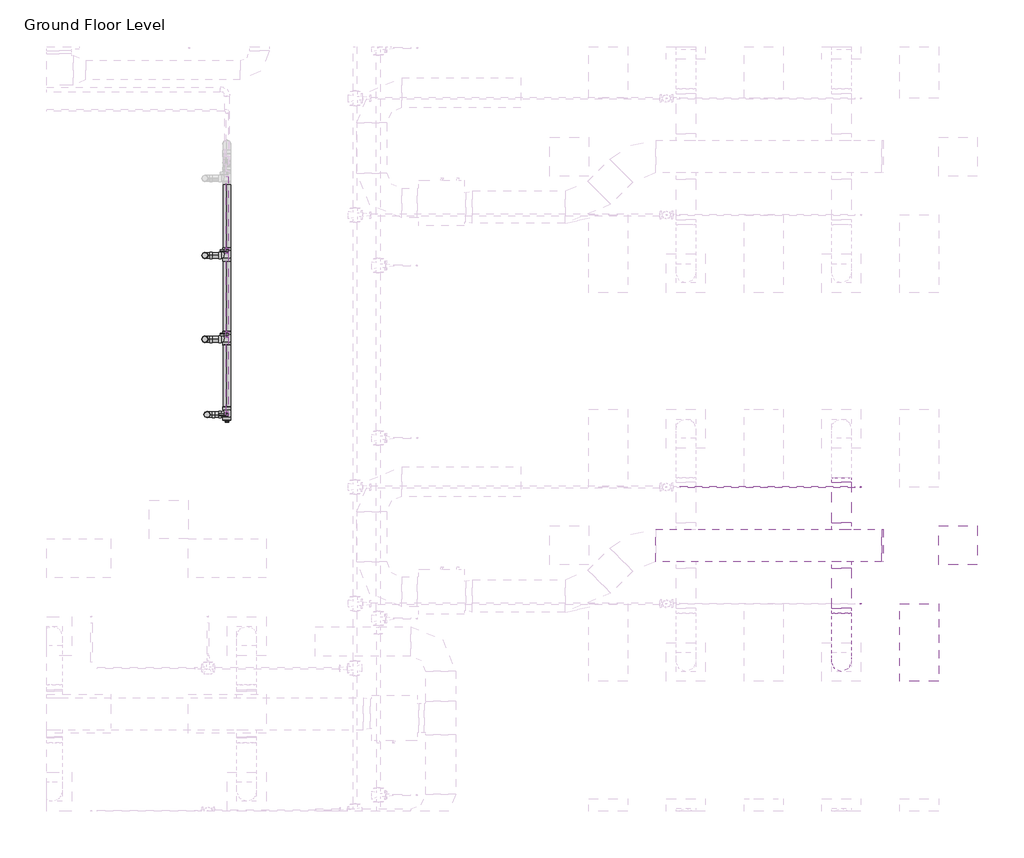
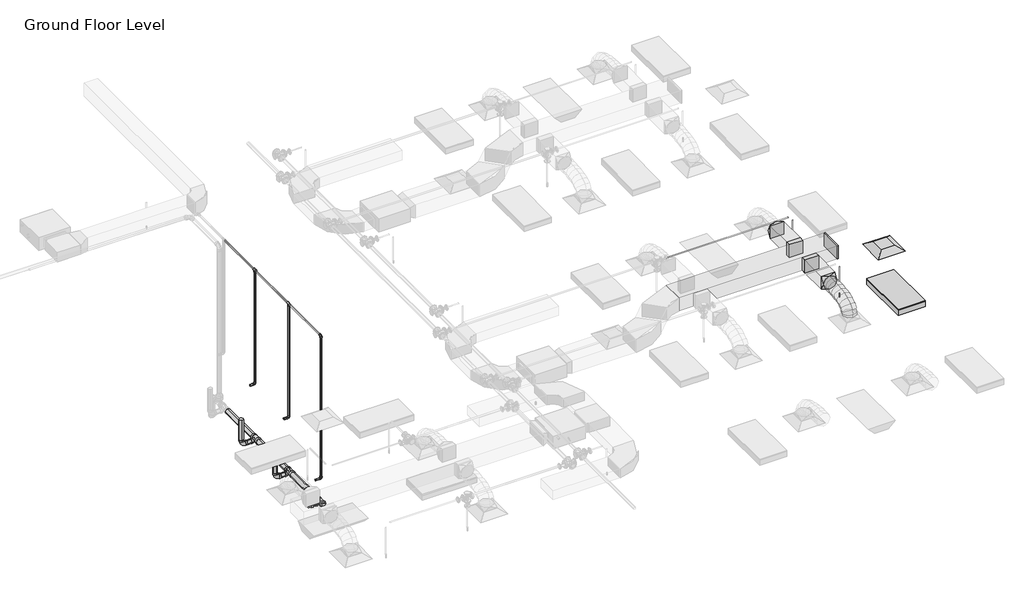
# One storey, part 61 of 68: 21 pipe segments, 13 pipe fittings, 5 duct fittings, 4 duct segments, 2 fire suppression terminals, 1 air terminal, 1 light fixture.
"""IFC4 building model written with IfcOpenShell, lengths in millimetres."""

from ifc_helpers import new_model, si_unit, point, frame, frame_2d, origin, place, context, project, spatial, polyline, circle_curve, ellipse_curve, trimmed, segment, composite_curve, outline, extrude, transform, mapped, element, save
from ifc_brep_helpers import plane_surface, cylinder_surface, advanced_brep
from components import m_return_diffuser_600_x_600_face_300_x_300_connection_ff221211, m_rectangular_endcap_standard_72d4d00d, m_rectangular_takeoff_standard_cb0ccb98, m_rectangular_takeoff_standard_2be5eba1, m_rectangular_to_round_transition_angle_45_degree_641efff0, m_sprinkler_dry_pendent_hosted_15_mm_dry_pendent_9bda8e11, m_troffer_light_parabolic_rectangular1_0600x1200mm_4_lamp_86473d4a, m_bend_pvc_sch_40_dwv_standard_a4b99d37, m_plug_pvc_sch_40_dwv_standard_6c40de1c, m_tee_reducing_sanitary_pvc_sch_40_dwv_standard_b49161a9, standard_517a5a8d, standard_72b35c3b, standard_bfa7e4ca

model = new_model("IFC4")

# Units and contexts
model_context = context("Model", 3, world=origin())
ifc_project = project(units=[si_unit("LENGTHUNIT", "METRE", prefix="MILLI")], contexts=[model_context])

# Site, building, storey
site = spatial("IfcSite", under=ifc_project)
building = spatial("IfcBuilding", under=site)
storey = spatial("IfcBuildingStorey", under=building, Name="Ground Floor Level", Elevation=900.0)

# Air terminal
placement = place(None, origin())
m_return_diffuser_600_x_600_face_300_x_300_connection_shape = m_return_diffuser_600_x_600_face_300_x_300_connection_ff221211(model_context)
element("IfcAirTerminal", 1, ObjectType="M_Return Diffuser : 600 x 600 Face 300 x 300 Connection", at=placement, inside=storey, context=model_context, shape_type="MappedRepresentation", body=[
    mapped(m_return_diffuser_600_x_600_face_300_x_300_connection_shape, transform((14942.7672395, 6735.2153534, 3650.0), x_axis=(1.0, 0.0, 0.0), y_axis=(0.0, 1.0, 0.0), z_axis=(0.0, 0.0, 1.0))),
])

# Duct fittings
m_rectangular_endcap_standard_shape = m_rectangular_endcap_standard_72d4d00d(model_context)
element("IfcDuctFitting", 2, ObjectType="M_Rectangular Endcap : Standard", at=placement, inside=storey, context=model_context, shape_type="MappedRepresentation", body=[
    mapped(m_rectangular_endcap_standard_shape, transform((13766.7301365, 6735.2153534, 4100.0), x_axis=(1.0, 0.0, 0.0), y_axis=(0.0, 1.0, 0.0), z_axis=(0.0, 0.0, 1.0))),
])
m_rectangular_takeoff_standard_shape = m_rectangular_takeoff_standard_cb0ccb98(model_context)
element("IfcDuctFitting", 3, ObjectType="M_Rectangular Takeoff : Standard", at=placement, inside=storey, context=model_context, shape_type="MappedRepresentation", body=[
    mapped(m_rectangular_takeoff_standard_shape, transform((13142.7672395, 6985.2153534, 4100.0), x_axis=(0.0, 1.0, 0.0), y_axis=(1.0, 0.0, 0.0), z_axis=(0.0, 0.0, -1.0))),
])
m_rectangular_takeoff_standard_2_shape = m_rectangular_takeoff_standard_2be5eba1(model_context)
element("IfcDuctFitting", 4, ObjectType="M_Rectangular Takeoff : Standard", at=placement, inside=storey, context=model_context, shape_type="MappedRepresentation", body=[
    mapped(m_rectangular_takeoff_standard_2_shape, transform((13142.7672395, 6485.2153534, 4100.0), x_axis=(0.0, -1.0, 0.0), y_axis=(-1.0, 0.0, 0.0), z_axis=(0.0, 0.0, -1.0))),
])
m_rectangular_to_round_transition_angle_45_degree_shape = m_rectangular_to_round_transition_angle_45_degree_641efff0(model_context)
element("IfcDuctFitting", 5, ObjectType="M_Rectangular to Round Transition - Angle : 45 Degree", at=placement, inside=storey, context=model_context, shape_type="MappedRepresentation", body=[
    mapped(m_rectangular_to_round_transition_angle_45_degree_shape, transform((13142.7672395, 5762.5512847, 4100.0), x_axis=(0.0, -1.0, 0.0), y_axis=(1.0, 0.0, 0.0), z_axis=(0.0, 0.0, 1.0))),
])
element("IfcDuctFitting", 6, ObjectType="M_Rectangular to Round Transition - Angle : 45 Degree", at=placement, inside=storey, context=model_context, shape_type="MappedRepresentation", body=[
    mapped(m_rectangular_to_round_transition_angle_45_degree_shape, transform((13142.7672395, 7707.8794221, 4100.0), x_axis=(0.0, 1.0, 0.0), y_axis=(-1.0, 0.0, 0.0), z_axis=(0.0, 0.0, 1.0))),
])

# Duct segments
element("IfcDuctSegment", 7, ObjectType="Flex - Round", at=placement, inside=storey, context=model_context, shape_type="AdvancedBrep", body=[
    advanced_brep(
    [(13292.7672395, 4935.2153534, 3826.6), (13142.7672395, 4785.2153534, 3826.6), (12992.7672395, 4935.2153534, 3826.6), (13142.7672395, 5085.2153534, 3826.6), (13292.7672395, 4935.2153534, 3857.9377114), (13142.7672395, 4785.2153534, 3883.5809337), (12992.7672395, 4935.2153534, 3857.9377114), (13142.7672395, 5085.2153534, 3832.2944892), (13292.7672395, 4952.2312859, 3906.2505728), (13142.7672395, 4818.493307, 3978.0660967), (12992.7672395, 4952.2312859, 3906.2505728), (13142.7672395, 5085.9692649, 3834.435049), (13292.7672395, 4999.4151663, 3968.7113131), (13142.7672395, 4895.209267, 4079.6206026), (12992.7672395, 4999.4151663, 3968.7113131), (13142.7672395, 5103.6210655, 3857.8020236), (13292.7672395, 5070.9711184, 4016.0700639), (13142.7672395, 5002.0370628, 4150.3237489), (12992.7672395, 5070.9711184, 4016.0700639), (13142.7672395, 5139.9051741, 3881.8163788), (13292.7672395, 5161.1032664, 4050.4146682), (13142.7672395, 5117.5425033, 4194.3367758), (12992.7672395, 5161.1032664, 4050.4146682), (13142.7672395, 5204.6640296, 3906.4925606), (13292.7672395, 5264.0157343, 4073.8329691), (13142.7672395, 5237.4548103, 4221.6234841), (12992.7672395, 5264.0157343, 4073.8329691), (13142.7672395, 5290.5766583, 3926.0424542), (13292.7672395, 5373.912646, 4088.4128097), (13142.7672395, 5358.7617437, 4237.7170733), (12992.7672395, 5373.912646, 4088.4128097), (13142.7672395, 5389.0635483, 3939.1085462), (13292.7672395, 5484.9981256, 4096.242033), (13142.7672395, 5477.4927974, 4246.085151), (12992.7672395, 5484.9981256, 4096.242033), (13142.7672395, 5492.5034538, 3946.398915), (13292.7672395, 5591.4762972, 4099.4084821), (13142.7672395, 5588.7848041, 4249.394754), (12992.7672395, 5591.4762972, 4099.4084821), (13142.7672395, 5594.1677903, 3949.4222102), (13292.7672395, 5687.5512847, 4100.0), (13142.7672395, 5688.4747925, 3950.0028429), (12992.7672395, 5687.5512847, 4100.0), (13142.7672395, 5686.6277768, 4249.9971571)],
    [
        (0, 1, circle_curve(frame((13142.7672395, 4935.2153534, 3826.6), z_axis=(0.0, 0.0, -1.0), x_axis=(1.0, 0.0, 0.0)), 150.0)),
        (1, 2, circle_curve(frame((13142.7672395, 4935.2153534, 3826.6), z_axis=(0.0, 0.0, -1.0), x_axis=(1.0, 0.0, 0.0)), 150.0)),
        (2, 3, circle_curve(frame((13142.7672395, 4935.2153534, 3826.6), z_axis=(0.0, 0.0, -1.0), x_axis=(1.0, 0.0, 0.0)), 150.0)),
        (3, 0, circle_curve(frame((13142.7672395, 4935.2153534, 3826.6), z_axis=(0.0, 0.0, -1.0), x_axis=(1.0, 0.0, 0.0)), 150.0)),
        (0, 4),
        (4, 5, ellipse_curve(frame((13142.7672395, 4935.2153534, 3857.9377114), z_axis=(0.0, -0.16851014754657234, -0.9856999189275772), x_axis=(0.0, 0.9856999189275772, -0.1685101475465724)), 152.176131, 150.0)),
        (5, 1),
        (5, 6, ellipse_curve(frame((13142.7672395, 4935.2153534, 3857.9377114), z_axis=(0.0, -0.16851014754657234, -0.9856999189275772), x_axis=(0.0, 0.9856999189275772, -0.1685101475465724)), 152.176131, 150.0)),
        (6, 2),
        (6, 7, ellipse_curve(frame((13142.7672395, 4935.2153534, 3857.9377114), z_axis=(0.0, -0.16851014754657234, -0.9856999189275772), x_axis=(0.0, 0.9856999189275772, -0.1685101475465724)), 152.176131, 150.0)),
        (7, 3),
        (7, 4, ellipse_curve(frame((13142.7672395, 4935.2153534, 3857.9377114), z_axis=(0.0, -0.16851014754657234, -0.9856999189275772), x_axis=(0.0, 0.9856999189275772, -0.1685101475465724)), 152.176131, 150.0)),
        (4, 8),
        (8, 9, ellipse_curve(frame((13142.7672395, 4952.2312859, 3906.2505728), z_axis=(0.0, -0.4730922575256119, -0.8810128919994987), x_axis=(0.0, 0.8810128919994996, -0.47309225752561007)), 151.8002519, 150.0)),
        (9, 5),
        (9, 10, ellipse_curve(frame((13142.7672395, 4952.2312859, 3906.2505728), z_axis=(0.0, -0.4730922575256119, -0.8810128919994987), x_axis=(0.0, 0.8810128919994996, -0.47309225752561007)), 151.8002519, 150.0)),
        (10, 6),
        (10, 11, ellipse_curve(frame((13142.7672395, 4952.2312859, 3906.2505728), z_axis=(0.0, -0.4730922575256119, -0.8810128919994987), x_axis=(0.0, 0.8810128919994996, -0.47309225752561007)), 151.8002519, 150.0)),
        (11, 7),
        (11, 8, ellipse_curve(frame((13142.7672395, 4952.2312859, 3906.2505728), z_axis=(0.0, -0.4730922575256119, -0.8810128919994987), x_axis=(0.0, 0.8810128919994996, -0.47309225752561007)), 151.8002519, 150.0)),
        (8, 12),
        (12, 13, ellipse_curve(frame((13142.7672395, 4999.4151663, 3968.7113131), z_axis=(0.0, -0.7287877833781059, -0.6847396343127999), x_axis=(0.0, 0.6847396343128, -0.7287877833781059)), 152.1832446, 150.0)),
        (13, 9),
        (13, 14, ellipse_curve(frame((13142.7672395, 4999.4151663, 3968.7113131), z_axis=(0.0, -0.7287877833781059, -0.6847396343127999), x_axis=(0.0, 0.6847396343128, -0.7287877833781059)), 152.1832446, 150.0)),
        (14, 10),
        (14, 15, ellipse_curve(frame((13142.7672395, 4999.4151663, 3968.7113131), z_axis=(0.0, -0.7287877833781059, -0.6847396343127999), x_axis=(0.0, 0.6847396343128, -0.7287877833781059)), 152.1832446, 150.0)),
        (15, 11),
        (15, 12, ellipse_curve(frame((13142.7672395, 4999.4151663, 3968.7113131), z_axis=(0.0, -0.7287877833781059, -0.6847396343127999), x_axis=(0.0, 0.6847396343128, -0.7287877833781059)), 152.1832446, 150.0)),
        (12, 16),
        (16, 17, ellipse_curve(frame((13142.7672395, 5070.9711184, 4016.0700639), z_axis=(0.0, -0.8895859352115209, -0.4567678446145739), x_axis=(0.0, 0.4567678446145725, -0.8895859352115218)), 150.91705, 150.0)),
        (17, 13),
        (17, 18, ellipse_curve(frame((13142.7672395, 5070.9711184, 4016.0700639), z_axis=(0.0, -0.8895859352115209, -0.4567678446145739), x_axis=(0.0, 0.4567678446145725, -0.8895859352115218)), 150.91705, 150.0)),
        (18, 14),
        (18, 19, ellipse_curve(frame((13142.7672395, 5070.9711184, 4016.0700639), z_axis=(0.0, -0.8895859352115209, -0.4567678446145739), x_axis=(0.0, 0.4567678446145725, -0.8895859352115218)), 150.91705, 150.0)),
        (19, 15),
        (19, 16, ellipse_curve(frame((13142.7672395, 5070.9711184, 4016.0700639), z_axis=(0.0, -0.8895859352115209, -0.4567678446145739), x_axis=(0.0, 0.4567678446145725, -0.8895859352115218)), 150.91705, 150.0)),
        (16, 20),
        (20, 21, ellipse_curve(frame((13142.7672395, 5161.1032664, 4050.4146682), z_axis=(0.0, -0.9571203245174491, -0.28969067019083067), x_axis=(0.0, 0.28969067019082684, -0.9571203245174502)), 150.369921, 150.0)),
        (21, 17),
        (21, 22, ellipse_curve(frame((13142.7672395, 5161.1032664, 4050.4146682), z_axis=(0.0, -0.9571203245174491, -0.28969067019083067), x_axis=(0.0, 0.28969067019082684, -0.9571203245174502)), 150.369921, 150.0)),
        (22, 18),
        (22, 23, ellipse_curve(frame((13142.7672395, 5161.1032664, 4050.4146682), z_axis=(0.0, -0.9571203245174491, -0.28969067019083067), x_axis=(0.0, 0.28969067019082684, -0.9571203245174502)), 150.369921, 150.0)),
        (23, 19),
        (23, 20, ellipse_curve(frame((13142.7672395, 5161.1032664, 4050.4146682), z_axis=(0.0, -0.9571203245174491, -0.28969067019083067), x_axis=(0.0, 0.28969067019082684, -0.9571203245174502)), 150.369921, 150.0)),
        (20, 24),
        (24, 25, ellipse_curve(frame((13142.7672395, 5264.0157343, 4073.8329691), z_axis=(0.0, -0.9842313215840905, -0.17688613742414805), x_axis=(0.0, 0.17688613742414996, -0.9842313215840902)), 150.1583131, 150.0)),
        (25, 21),
        (25, 26, ellipse_curve(frame((13142.7672395, 5264.0157343, 4073.8329691), z_axis=(0.0, -0.9842313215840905, -0.17688613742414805), x_axis=(0.0, 0.17688613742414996, -0.9842313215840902)), 150.1583131, 150.0)),
        (26, 22),
        (26, 27, ellipse_curve(frame((13142.7672395, 5264.0157343, 4073.8329691), z_axis=(0.0, -0.9842313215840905, -0.17688613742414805), x_axis=(0.0, 0.17688613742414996, -0.9842313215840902)), 150.1583131, 150.0)),
        (27, 23),
        (27, 24, ellipse_curve(frame((13142.7672395, 5264.0157343, 4073.8329691), z_axis=(0.0, -0.9842313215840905, -0.17688613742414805), x_axis=(0.0, 0.17688613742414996, -0.9842313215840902)), 150.1583131, 150.0)),
        (24, 28),
        (28, 29, ellipse_curve(frame((13142.7672395, 5373.912646, 4088.4128097), z_axis=(0.0, -0.9948906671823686, -0.10095821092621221), x_axis=(0.0, 0.10095821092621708, -0.9948906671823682)), 150.0710264, 150.0)),
        (29, 25),
        (29, 30, ellipse_curve(frame((13142.7672395, 5373.912646, 4088.4128097), z_axis=(0.0, -0.9948906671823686, -0.10095821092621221), x_axis=(0.0, 0.10095821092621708, -0.9948906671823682)), 150.0710264, 150.0)),
        (30, 26),
        (30, 31, ellipse_curve(frame((13142.7672395, 5373.912646, 4088.4128097), z_axis=(0.0, -0.9948906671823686, -0.10095821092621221), x_axis=(0.0, 0.10095821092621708, -0.9948906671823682)), 150.0710264, 150.0)),
        (31, 27),
        (31, 28, ellipse_curve(frame((13142.7672395, 5373.912646, 4088.4128097), z_axis=(0.0, -0.9948906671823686, -0.10095821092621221), x_axis=(0.0, 0.10095821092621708, -0.9948906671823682)), 150.0710264, 150.0)),
        (28, 32),
        (32, 33, ellipse_curve(frame((13142.7672395, 5484.9981256, 4096.242033), z_axis=(0.0, -0.9987479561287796, -0.05002519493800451), x_axis=(0.0, 0.050025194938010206, -0.9987479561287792)), 150.0309634, 150.0)),
        (33, 29),
        (33, 34, ellipse_curve(frame((13142.7672395, 5484.9981256, 4096.242033), z_axis=(0.0, -0.9987479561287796, -0.05002519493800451), x_axis=(0.0, 0.050025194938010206, -0.9987479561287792)), 150.0309634, 150.0)),
        (34, 30),
        (34, 35, ellipse_curve(frame((13142.7672395, 5484.9981256, 4096.242033), z_axis=(0.0, -0.9987479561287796, -0.05002519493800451), x_axis=(0.0, 0.050025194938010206, -0.9987479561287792)), 150.0309634, 150.0)),
        (35, 31),
        (35, 32, ellipse_curve(frame((13142.7672395, 5484.9981256, 4096.242033), z_axis=(0.0, -0.9987479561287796, -0.05002519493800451), x_axis=(0.0, 0.050025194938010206, -0.9987479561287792)), 150.0309634, 150.0)),
        (32, 36),
        (36, 37, ellipse_curve(frame((13142.7672395, 5591.4762972, 4099.4084821), z_axis=(0.0, -0.9998390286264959, -0.017942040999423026), x_axis=(0.0, 0.01794204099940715, -0.9998390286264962)), 150.0104193, 150.0)),
        (37, 33),
        (37, 38, ellipse_curve(frame((13142.7672395, 5591.4762972, 4099.4084821), z_axis=(0.0, -0.9998390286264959, -0.017942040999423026), x_axis=(0.0, 0.01794204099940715, -0.9998390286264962)), 150.0104193, 150.0)),
        (38, 34),
        (38, 39, ellipse_curve(frame((13142.7672395, 5591.4762972, 4099.4084821), z_axis=(0.0, -0.9998390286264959, -0.017942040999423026), x_axis=(0.0, 0.01794204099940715, -0.9998390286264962)), 150.0104193, 150.0)),
        (39, 35),
        (39, 36, ellipse_curve(frame((13142.7672395, 5591.4762972, 4099.4084821), z_axis=(0.0, -0.9998390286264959, -0.017942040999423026), x_axis=(0.0, 0.01794204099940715, -0.9998390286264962)), 150.0104193, 150.0)),
        (40, 41, circle_curve(frame((13142.7672395, 5687.5512847, 4100.0), z_axis=(0.0, 0.9999810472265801, 0.006156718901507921), x_axis=(1.0, 0.0, 0.0)), 150.0)),
        (41, 42, circle_curve(frame((13142.7672395, 5687.5512847, 4100.0), z_axis=(0.0, 0.9999810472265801, 0.006156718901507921), x_axis=(1.0, 0.0, 0.0)), 150.0)),
        (42, 43, circle_curve(frame((13142.7672395, 5687.5512847, 4100.0), z_axis=(0.0, 0.9999810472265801, 0.006156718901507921), x_axis=(1.0, 0.0, 0.0)), 150.0)),
        (43, 40, circle_curve(frame((13142.7672395, 5687.5512847, 4100.0), z_axis=(0.0, 0.9999810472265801, 0.006156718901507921), x_axis=(1.0, 0.0, 0.0)), 150.0)),
        (36, 40),
        (43, 37),
        (42, 38),
        (41, 39),
    ],
    [
        plane_surface(frame((13142.7672395, 4785.2153534, 3826.6), z_axis=(0.0, 0.0, -1.0), x_axis=(1.0, 0.0, 0.0))),
        cylinder_surface(frame((13142.7672395, 4935.2153534, 3826.6), z_axis=(0.0, 0.0, -1.0), x_axis=(1.0, 0.0, 0.0)), 150.0),
        cylinder_surface(frame((13142.7672395, 4935.2153534, 3857.9377114), z_axis=(0.0, -0.3322008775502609, -0.9432086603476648), x_axis=(1.0, 0.0, 0.0)), 150.0),
        cylinder_surface(frame((13142.7672395, 4952.2312859, 3906.2505728), z_axis=(0.0, -0.6027625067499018, -0.7979206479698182), x_axis=(1.0, 0.0, 0.0)), 150.0),
        cylinder_surface(frame((13142.7672395, 4999.4151663, 3968.7113131), z_axis=(0.0, -0.8339024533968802, -0.5519118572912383), x_axis=(1.0, 0.0, 0.0)), 150.0),
        cylinder_surface(frame((13142.7672395, 5070.9711184, 4016.0700639), z_axis=(0.0, -0.934458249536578, -0.35607271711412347), x_axis=(1.0, 0.0, 0.0)), 150.0),
        cylinder_surface(frame((13142.7672395, 5161.1032664, 4050.4146682), z_axis=(0.0, -0.9750732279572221, -0.22188330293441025), x_axis=(1.0, 0.0, 0.0)), 150.0),
        cylinder_surface(frame((13142.7672395, 5264.0157343, 4073.8329691), z_axis=(0.0, -0.9913140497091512, -0.1315159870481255), x_axis=(1.0, 0.0, 0.0)), 150.0),
        cylinder_surface(frame((13142.7672395, 5373.912646, 4088.4128097), z_axis=(0.0, -0.9975255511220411, -0.07030487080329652), x_axis=(1.0, 0.0, 0.0)), 150.0),
        cylinder_surface(frame((13142.7672395, 5484.9981256, 4096.242033), z_axis=(0.0, -0.9995581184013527, -0.02972487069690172), x_axis=(1.0, 0.0, 0.0)), 150.0),
        plane_surface(frame((13142.7672395, 5686.6277768, 4249.9971571), z_axis=(0.0, 0.9999810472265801, 0.0061567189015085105), x_axis=(1.0, 0.0, 0.0))),
        cylinder_surface(frame((13142.7672395, 5591.4762972, 4099.4084821), z_axis=(0.0, -0.9999810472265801, -0.006156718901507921), x_axis=(1.0, 0.0, 0.0)), 150.0),
    ],
    [
        (0, [[1, 2, 3, 4]]),
        (1, [[-1, 5, 6, 7]]),
        (1, [[-2, -7, 8, 9]]),
        (1, [[-3, -9, 10, 11]]),
        (1, [[-4, -11, 12, -5]]),
        (2, [[-6, 13, 14, 15]]),
        (2, [[-8, -15, 16, 17]]),
        (2, [[-10, -17, 18, 19]]),
        (2, [[-12, -19, 20, -13]]),
        (3, [[-14, 21, 22, 23]]),
        (3, [[-16, -23, 24, 25]]),
        (3, [[-18, -25, 26, 27]]),
        (3, [[-20, -27, 28, -21]]),
        (4, [[-22, 29, 30, 31]]),
        (4, [[-24, -31, 32, 33]]),
        (4, [[-26, -33, 34, 35]]),
        (4, [[-28, -35, 36, -29]]),
        (5, [[-30, 37, 38, 39]]),
        (5, [[-32, -39, 40, 41]]),
        (5, [[-34, -41, 42, 43]]),
        (5, [[-36, -43, 44, -37]]),
        (6, [[-38, 45, 46, 47]]),
        (6, [[-40, -47, 48, 49]]),
        (6, [[-42, -49, 50, 51]]),
        (6, [[-44, -51, 52, -45]]),
        (7, [[-46, 53, 54, 55]]),
        (7, [[-48, -55, 56, 57]]),
        (7, [[-50, -57, 58, 59]]),
        (7, [[-52, -59, 60, -53]]),
        (8, [[-54, 61, 62, 63]]),
        (8, [[-56, -63, 64, 65]]),
        (8, [[-58, -65, 66, 67]]),
        (8, [[-60, -67, 68, -61]]),
        (9, [[-62, 69, 70, 71]]),
        (9, [[-64, -71, 72, 73]]),
        (9, [[-66, -73, 74, 75]]),
        (9, [[-68, -75, 76, -69]]),
        (10, [[77, 78, 79, 80]]),
        (11, [[-70, 81, -80, 82]]),
        (11, [[-72, -82, -79, 83]]),
        (11, [[-74, -83, -78, 84]]),
        (11, [[-76, -84, -77, -81]]),
    ],
),
])
element("IfcDuctSegment", 8, ObjectType="Radius Elbows / Taps", at=placement, inside=storey, context=model_context, shape_type="SweptSolid", body=[
    extrude(outline(polyline([(10277.3903083, 6485.2153534), (10277.3903083, 6985.2153534), (13766.7301365, 6985.2153534), (13766.7301365, 6485.2153534), (10277.3903083, 6485.2153534)])), frame((0.0, 0.0, 3950.0), z_axis=(0.0, 0.0, 1.0), x_axis=(1.0, 0.0, 0.0)), (0.0, 0.0, 1.0), 300.0),
])
element("IfcDuctSegment", 9, ObjectType="Radius Elbows / Taps", at=placement, inside=storey, context=model_context, shape_type="SweptSolid", body=[
    extrude(outline(polyline([(13292.7672395, 7086.8153534), (12992.7672395, 7086.8153534), (12992.7672395, 7707.8794221), (13292.7672395, 7707.8794221), (13292.7672395, 7086.8153534)])), frame((0.0, 0.0, 3950.0), z_axis=(0.0, 0.0, 1.0), x_axis=(1.0, 0.0, 0.0)), (0.0, 0.0, 1.0), 300.0),
])
element("IfcDuctSegment", 10, ObjectType="Radius Elbows / Taps", at=placement, inside=storey, context=model_context, shape_type="SweptSolid", body=[
    extrude(outline(polyline([(12992.7672395, 6383.6153534), (13292.7672395, 6383.6153534), (13292.7672395, 5762.5512847), (12992.7672395, 5762.5512847), (12992.7672395, 6383.6153534)])), frame((0.0, 0.0, 3950.0), z_axis=(0.0, 0.0, 1.0), x_axis=(1.0, 0.0, 0.0)), (0.0, 0.0, 1.0), 300.0),
])

# Fire suppression terminals
m_sprinkler_dry_pendent_hosted_15_mm_dry_pendent_shape = m_sprinkler_dry_pendent_hosted_15_mm_dry_pendent_9bda8e11(model_context)
element("IfcFireSuppressionTerminal", 11, ObjectType="M_Sprinkler - Dry - Pendent - Hosted : 15 mm Dry Pendent", at=placement, inside=storey, context=model_context, shape_type="MappedRepresentation", body=[
    mapped(m_sprinkler_dry_pendent_hosted_15_mm_dry_pendent_shape, transform((13442.7672395, 7635.2153534, 3650.0), x_axis=(1.0, 0.0, 0.0), y_axis=(0.0, -1.0, 0.0), z_axis=(0.0, 0.0, -1.0))),
])
element("IfcFireSuppressionTerminal", 12, ObjectType="M_Sprinkler - Dry - Pendent - Hosted : 15 mm Dry Pendent", at=placement, inside=storey, context=model_context, shape_type="MappedRepresentation", body=[
    mapped(m_sprinkler_dry_pendent_hosted_15_mm_dry_pendent_shape, transform((13442.7672395, 5835.2153534, 3650.0), x_axis=(1.0, 0.0, 0.0), y_axis=(0.0, -1.0, 0.0), z_axis=(0.0, 0.0, -1.0))),
])

# Light fixture
m_troffer_light_parabolic_rectangular1_0600x1200mm_4_lamp_shape = m_troffer_light_parabolic_rectangular1_0600x1200mm_4_lamp_86473d4a(model_context)
element("IfcLightFixture", 13, ObjectType="M_Troffer Light - Parabolic Rectangular1 : 0600x1200mm(4 Lamp) - 277V 2", at=placement, inside=storey, context=model_context, shape_type="MappedRepresentation", body=[
    mapped(m_troffer_light_parabolic_rectangular1_0600x1200mm_4_lamp_shape, transform((14283.3013074, 5253.9188549, 3650.0), x_axis=(0.0, 1.0, 0.0), y_axis=(-1.0, 0.0, 0.0), z_axis=(0.0, 0.0, 1.0))),
])

# Pipe fittings
m_bend_pvc_sch_40_dwv_standard_shape = m_bend_pvc_sch_40_dwv_standard_a4b99d37(model_context)
element("IfcPipeFitting", 14, ObjectType="M_Bend - PVC - Sch 40 - DWV : Standard", at=placement, inside=storey, context=model_context, shape_type="MappedRepresentation", body=[
    mapped(m_bend_pvc_sch_40_dwv_standard_shape, transform((3351.3697667, 8754.4159333, 426.6255336), x_axis=(0.0, 0.0, -1.0), y_axis=(1.0, 0.0, 0.0), z_axis=(0.0, -1.0, 0.0))),
])
element("IfcPipeFitting", 15, ObjectType="M_Bend - PVC - Sch 40 - DWV : Standard", at=placement, inside=storey, context=model_context, shape_type="MappedRepresentation", body=[
    mapped(m_bend_pvc_sch_40_dwv_standard_shape, transform((3319.2245422, 9917.654001, 414.9931529), x_axis=(0.0, 0.0, -1.0), y_axis=(1.0, 0.0, 0.0), z_axis=(0.0, -1.0, 0.0))),
])
element("IfcPipeFitting", 16, ObjectType="M_Bend - PVC - Sch 40 - DWV : Standard", at=placement, inside=storey, context=model_context, shape_type="MappedRepresentation", body=[
    mapped(m_bend_pvc_sch_40_dwv_standard_shape, transform((3319.2245422, 11211.6258776, 402.0534342), x_axis=(0.0, 0.0, -1.0), y_axis=(1.0, 0.0, 0.0), z_axis=(0.0, -1.0, 0.0))),
])
m_plug_pvc_sch_40_dwv_standard_shape = m_plug_pvc_sch_40_dwv_standard_6c40de1c(model_context)
element("IfcPipeFitting", 17, ObjectType="M_Plug - PVC - Sch 40 - DWV : Standard", at=placement, inside=storey, context=model_context, shape_type="MappedRepresentation", body=[
    mapped(m_plug_pvc_sch_40_dwv_standard_shape, transform((3657.4922763, 8665.519878, 427.4644942), x_axis=(0.0, -0.9999500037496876, 0.009999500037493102), y_axis=(1.0, 0.0, 0.0), z_axis=(0.0, 0.009999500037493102, 0.9999500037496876))),
])
m_tee_reducing_sanitary_pvc_sch_40_dwv_standard_shape = m_tee_reducing_sanitary_pvc_sch_40_dwv_standard_b49161a9(model_context)
element("IfcPipeFitting", 18, ObjectType="M_Tee Reducing Sanitary - PVC - Sch 40 - DWV : Standard", at=placement, inside=storey, context=model_context, shape_type="MappedRepresentation", body=[
    mapped(m_tee_reducing_sanitary_pvc_sch_40_dwv_standard_shape, transform((3657.4922763, 8754.4154334, 426.5755386), x_axis=(0.0, -0.9999500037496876, 0.009999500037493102), y_axis=(1.0, 0.0, 0.0), z_axis=(0.0, 0.009999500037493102, 0.9999500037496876))),
])
element("IfcPipeFitting", 19, ObjectType="M_Tee Reducing Sanitary - PVC - Sch 40 - DWV : Standard", at=placement, inside=storey, context=model_context, shape_type="MappedRepresentation", body=[
    mapped(m_tee_reducing_sanitary_pvc_sch_40_dwv_standard_shape, transform((3657.4922763, 9917.6535011, 414.9431579), x_axis=(0.0, -0.9999500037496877, 0.009999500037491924), y_axis=(1.0000000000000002, 0.0, 0.0), z_axis=(0.0, 0.009999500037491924, 0.9999500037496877))),
])
element("IfcPipeFitting", 20, ObjectType="M_Tee Reducing Sanitary - PVC - Sch 40 - DWV : Standard", at=placement, inside=storey, context=model_context, shape_type="MappedRepresentation", body=[
    mapped(m_tee_reducing_sanitary_pvc_sch_40_dwv_standard_shape, transform((3657.4922763, 11211.6253777, 402.0034392), x_axis=(0.0, -0.9999500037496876, 0.00999950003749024), y_axis=(1.0, 0.0, 0.0), z_axis=(0.0, 0.00999950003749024, 0.9999500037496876))),
])
standard_shape = standard_517a5a8d(model_context)
element("IfcPipeFitting", 21, ObjectType="M_Elbow - CPVC - Sch 40 : Standard", at=placement, inside=storey, context=model_context, shape_type="MappedRepresentation", body=[
    mapped(standard_shape, transform((3662.4674395, 8754.4154334, 4315.0), x_axis=(0.0, -1.0, 0.0), y_axis=(0.0, 0.0, -1.0), z_axis=(1.0, 0.0, 0.0))),
])
element("IfcPipeFitting", 22, ObjectType="M_Elbow - CPVC - Sch 40 : Standard", at=placement, inside=storey, context=model_context, shape_type="MappedRepresentation", body=[
    mapped(standard_shape, transform((3662.4674395, 9991.0922673, 1655.0), x_axis=(0.0, 0.0, -1.0), y_axis=(-1.0, 0.0, 0.0), z_axis=(0.0, 1.0, 0.0))),
])
element("IfcPipeFitting", 23, ObjectType="M_Elbow - CPVC - Sch 40 : Standard", at=placement, inside=storey, context=model_context, shape_type="MappedRepresentation", body=[
    mapped(standard_shape, transform((3662.4674395, 11285.0641439, 1655.0), x_axis=(0.0, 0.0, -1.0), y_axis=(-1.0, 0.0, 0.0), z_axis=(0.0, 1.0, 0.0))),
])
standard_2_shape = standard_72b35c3b(model_context)
element("IfcPipeFitting", 24, ObjectType="M_Tee - CPVC - Sch 40 : Standard", at=placement, inside=storey, context=model_context, shape_type="MappedRepresentation", body=[
    mapped(standard_2_shape, transform((3662.4674395, 9991.0922673, 4315.0), x_axis=(0.0, -1.0, 0.0), y_axis=(0.0, 0.0, 1.0), z_axis=(-1.0, 0.0, 0.0))),
])
element("IfcPipeFitting", 25, ObjectType="M_Tee - CPVC - Sch 40 : Standard", at=placement, inside=storey, context=model_context, shape_type="MappedRepresentation", body=[
    mapped(standard_2_shape, transform((3662.4674395, 11285.0641439, 4315.0), x_axis=(0.0, -1.0, 0.0), y_axis=(0.0, 0.0, 1.0), z_axis=(-1.0, 0.0, 0.0))),
])
standard_3_shape = standard_bfa7e4ca(model_context)
element("IfcPipeFitting", 26, ObjectType="M_Elbow - CPVC - Sch 40 : Standard", at=placement, inside=storey, context=model_context, shape_type="MappedRepresentation", body=[
    mapped(standard_3_shape, transform((3662.4674395, 8754.4154334, 983.5), x_axis=(0.0, 0.0, -1.0), y_axis=(-1.0, 0.0, 0.0), z_axis=(0.0, 1.0, 0.0))),
])

# Pipe segments
element("IfcPipeSegment", 27, ObjectType="CPVC", at=placement, inside=storey, context=model_context, shape_type="SweptSolid", body=[
    extrude(outline(composite_curve([segment(trimmed(circle_curve(frame_2d((8754.4154334, 983.4999927)), 16.7005), [point((8771.1159334, 983.4999927))], [point((8754.4154334, 966.7994927))], False, "CARTESIAN"), True, "CONTINUOUS"), segment(trimmed(circle_curve(frame_2d((8754.4154334, 983.4999927)), 16.7005), [point((8754.4154334, 966.7994927))], [point((8737.7149334, 983.4999927))], False, "CARTESIAN"), True, "CONTINUOUS"), segment(trimmed(circle_curve(frame_2d((8754.4154334, 983.4999927)), 16.7005), [point((8737.7149334, 983.4999927))], [point((8754.4154334, 1000.2004927))], False, "CARTESIAN"), True, "CONTINUOUS"), segment(trimmed(circle_curve(frame_2d((8754.4154334, 983.4999927)), 16.7005), [point((8754.4154334, 1000.2004927))], [point((8771.1159334, 983.4999927))], False, "CARTESIAN"), True, "CONTINUOUS")], self_intersect=False)), frame((3537.5384422, 0.0, 0.0), z_axis=(1.0, 0.0, 0.0), x_axis=(0.0, 1.0, 0.0)), (0.0, 0.0, 1.0), 81.6664508),
])
element("IfcPipeSegment", 28, ObjectType="CPVC", at=placement, inside=storey, context=model_context, shape_type="SweptSolid", body=[
    extrude(outline(composite_curve([segment(trimmed(circle_curve(frame_2d((3662.4674395, 8754.4154334)), 16.7005), [point((3679.1679395, 8754.4154334))], [point((3662.4674395, 8737.7149334))], False, "CARTESIAN"), True, "CONTINUOUS"), segment(trimmed(circle_curve(frame_2d((3662.4674395, 8754.4154334)), 16.7005), [point((3662.4674395, 8737.7149334))], [point((3645.7669395, 8754.4154334))], False, "CARTESIAN"), True, "CONTINUOUS"), segment(trimmed(circle_curve(frame_2d((3662.4674395, 8754.4154334)), 16.7005), [point((3645.7669395, 8754.4154334))], [point((3662.4674395, 8771.1159334))], False, "CARTESIAN"), True, "CONTINUOUS"), segment(trimmed(circle_curve(frame_2d((3662.4674395, 8754.4154334)), 16.7005), [point((3662.4674395, 8771.1159334))], [point((3679.1679395, 8754.4154334))], False, "CARTESIAN"), True, "CONTINUOUS")], self_intersect=False)), frame((0.0, 0.0, 1026.7625464), z_axis=(0.0, 0.0, 1.0), x_axis=(1.0, 0.0, 0.0)), (0.0, 0.0, 1.0), 3244.9749036),
])
element("IfcPipeSegment", 29, ObjectType="CPVC", at=placement, inside=storey, context=model_context, shape_type="SweptSolid", body=[
    extrude(outline(composite_curve([segment(trimmed(circle_curve(frame_2d((4315.0, 3662.4674395)), 16.7005), [point((4315.0, 3645.7669395))], [point((4298.2995, 3662.4674395))], False, "CARTESIAN"), True, "CONTINUOUS"), segment(trimmed(circle_curve(frame_2d((4315.0, 3662.4674395)), 16.7005), [point((4298.2995, 3662.4674395))], [point((4315.0, 3679.1679395))], False, "CARTESIAN"), True, "CONTINUOUS"), segment(trimmed(circle_curve(frame_2d((4315.0, 3662.4674395)), 16.7005), [point((4315.0, 3679.1679395))], [point((4331.7005, 3662.4674395))], False, "CARTESIAN"), True, "CONTINUOUS"), segment(trimmed(circle_curve(frame_2d((4315.0, 3662.4674395)), 16.7005), [point((4331.7005, 3662.4674395))], [point((4315.0, 3645.7669395))], False, "CARTESIAN"), True, "CONTINUOUS")], self_intersect=False)), frame((0.0, 8797.6779834, 0.0), z_axis=(0.0, 1.0, 0.0), x_axis=(0.0, 0.0, 1.0)), (0.0, 0.0, 1.0), 1153.7140839),
])
element("IfcPipeSegment", 30, ObjectType="CPVC", at=placement, inside=storey, context=model_context, shape_type="SweptSolid", body=[
    extrude(outline(composite_curve([segment(trimmed(circle_curve(frame_2d((9991.0922673, 1655.0)), 16.7005), [point((10007.7927673, 1655.0))], [point((9991.0922673, 1638.2995))], False, "CARTESIAN"), True, "CONTINUOUS"), segment(trimmed(circle_curve(frame_2d((9991.0922673, 1655.0)), 16.7005), [point((9991.0922673, 1638.2995))], [point((9974.3917673, 1655.0))], False, "CARTESIAN"), True, "CONTINUOUS"), segment(trimmed(circle_curve(frame_2d((9991.0922673, 1655.0)), 16.7005), [point((9974.3917673, 1655.0))], [point((9991.0922673, 1671.7005))], False, "CARTESIAN"), True, "CONTINUOUS"), segment(trimmed(circle_curve(frame_2d((9991.0922673, 1655.0)), 16.7005), [point((9991.0922673, 1671.7005))], [point((10007.7927673, 1655.0))], False, "CARTESIAN"), True, "CONTINUOUS")], self_intersect=False)), frame((3552.7672395, 0.0, 0.0), z_axis=(1.0, 0.0, 0.0), x_axis=(0.0, 1.0, 0.0)), (0.0, 0.0, 1.0), 66.43765),
])
element("IfcPipeSegment", 31, ObjectType="CPVC", at=placement, inside=storey, context=model_context, shape_type="SweptSolid", body=[
    extrude(outline(composite_curve([segment(trimmed(circle_curve(frame_2d((3662.4674395, 9991.0922673)), 16.7005), [point((3679.1679395, 9991.0922673))], [point((3662.4674395, 9974.3917673))], False, "CARTESIAN"), True, "CONTINUOUS"), segment(trimmed(circle_curve(frame_2d((3662.4674395, 9991.0922673)), 16.7005), [point((3662.4674395, 9974.3917673))], [point((3645.7669395, 9991.0922673))], False, "CARTESIAN"), True, "CONTINUOUS"), segment(trimmed(circle_curve(frame_2d((3662.4674395, 9991.0922673)), 16.7005), [point((3645.7669395, 9991.0922673))], [point((3662.4674395, 10007.7927673))], False, "CARTESIAN"), True, "CONTINUOUS"), segment(trimmed(circle_curve(frame_2d((3662.4674395, 9991.0922673)), 16.7005), [point((3662.4674395, 10007.7927673))], [point((3679.1679395, 9991.0922673))], False, "CARTESIAN"), True, "CONTINUOUS")], self_intersect=False)), frame((0.0, 0.0, 1698.26255), z_axis=(0.0, 0.0, 1.0), x_axis=(1.0, 0.0, 0.0)), (0.0, 0.0, 1.0), 2577.03725),
])
element("IfcPipeSegment", 32, ObjectType="CPVC", at=placement, inside=storey, context=model_context, shape_type="SweptSolid", body=[
    extrude(outline(composite_curve([segment(trimmed(circle_curve(frame_2d((4315.0, 3662.4674395)), 16.7005), [point((4315.0, 3645.7669395))], [point((4298.2995, 3662.4674395))], False, "CARTESIAN"), True, "CONTINUOUS"), segment(trimmed(circle_curve(frame_2d((4315.0, 3662.4674395)), 16.7005), [point((4298.2995, 3662.4674395))], [point((4315.0, 3679.1679395))], False, "CARTESIAN"), True, "CONTINUOUS"), segment(trimmed(circle_curve(frame_2d((4315.0, 3662.4674395)), 16.7005), [point((4315.0, 3679.1679395))], [point((4331.7005, 3662.4674395))], False, "CARTESIAN"), True, "CONTINUOUS"), segment(trimmed(circle_curve(frame_2d((4315.0, 3662.4674395)), 16.7005), [point((4331.7005, 3662.4674395))], [point((4315.0, 3645.7669395))], False, "CARTESIAN"), True, "CONTINUOUS")], self_intersect=False)), frame((0.0, 10030.7924673, 0.0), z_axis=(0.0, 1.0, 0.0), x_axis=(0.0, 0.0, 1.0)), (0.0, 0.0, 1.0), 1214.5714766),
])
element("IfcPipeSegment", 33, ObjectType="CPVC", at=placement, inside=storey, context=model_context, shape_type="SweptSolid", body=[
    extrude(outline(composite_curve([segment(trimmed(circle_curve(frame_2d((11285.0641439, 1655.0)), 16.7005), [point((11301.7646439, 1655.0))], [point((11285.0641439, 1638.2995))], False, "CARTESIAN"), True, "CONTINUOUS"), segment(trimmed(circle_curve(frame_2d((11285.0641439, 1655.0)), 16.7005), [point((11285.0641439, 1638.2995))], [point((11268.3636439, 1655.0))], False, "CARTESIAN"), True, "CONTINUOUS"), segment(trimmed(circle_curve(frame_2d((11285.0641439, 1655.0)), 16.7005), [point((11268.3636439, 1655.0))], [point((11285.0641439, 1671.7005))], False, "CARTESIAN"), True, "CONTINUOUS"), segment(trimmed(circle_curve(frame_2d((11285.0641439, 1655.0)), 16.7005), [point((11285.0641439, 1671.7005))], [point((11301.7646439, 1655.0))], False, "CARTESIAN"), True, "CONTINUOUS")], self_intersect=False)), frame((3552.7672395, 0.0, 0.0), z_axis=(1.0, 0.0, 0.0), x_axis=(0.0, 1.0, 0.0)), (0.0, 0.0, 1.0), 66.43765),
])
element("IfcPipeSegment", 34, ObjectType="CPVC", at=placement, inside=storey, context=model_context, shape_type="SweptSolid", body=[
    extrude(outline(composite_curve([segment(trimmed(circle_curve(frame_2d((3662.4674395, 11285.0641439)), 16.7005), [point((3679.1679395, 11285.0641439))], [point((3662.4674395, 11268.3636439))], False, "CARTESIAN"), True, "CONTINUOUS"), segment(trimmed(circle_curve(frame_2d((3662.4674395, 11285.0641439)), 16.7005), [point((3662.4674395, 11268.3636439))], [point((3645.7669395, 11285.0641439))], False, "CARTESIAN"), True, "CONTINUOUS"), segment(trimmed(circle_curve(frame_2d((3662.4674395, 11285.0641439)), 16.7005), [point((3645.7669395, 11285.0641439))], [point((3662.4674395, 11301.7646439))], False, "CARTESIAN"), True, "CONTINUOUS"), segment(trimmed(circle_curve(frame_2d((3662.4674395, 11285.0641439)), 16.7005), [point((3662.4674395, 11301.7646439))], [point((3679.1679395, 11285.0641439))], False, "CARTESIAN"), True, "CONTINUOUS")], self_intersect=False)), frame((0.0, 0.0, 1698.26255), z_axis=(0.0, 0.0, 1.0), x_axis=(1.0, 0.0, 0.0)), (0.0, 0.0, 1.0), 2577.03725),
])
element("IfcPipeSegment", 35, ObjectType="CPVC", at=placement, inside=storey, context=model_context, shape_type="SweptSolid", body=[
    extrude(outline(composite_curve([segment(trimmed(circle_curve(frame_2d((4315.0, 3662.4674395)), 16.7005), [point((4315.0, 3645.7669395))], [point((4298.2995, 3662.4674395))], False, "CARTESIAN"), True, "CONTINUOUS"), segment(trimmed(circle_curve(frame_2d((4315.0, 3662.4674395)), 16.7005), [point((4298.2995, 3662.4674395))], [point((4315.0, 3679.1679395))], False, "CARTESIAN"), True, "CONTINUOUS"), segment(trimmed(circle_curve(frame_2d((4315.0, 3662.4674395)), 16.7005), [point((4315.0, 3679.1679395))], [point((4331.7005, 3662.4674395))], False, "CARTESIAN"), True, "CONTINUOUS"), segment(trimmed(circle_curve(frame_2d((4315.0, 3662.4674395)), 16.7005), [point((4331.7005, 3662.4674395))], [point((4315.0, 3645.7669395))], False, "CARTESIAN"), True, "CONTINUOUS")], self_intersect=False)), frame((0.0, 11324.7643439, 0.0), z_axis=(0.0, 1.0, 0.0), x_axis=(0.0, 0.0, 1.0)), (0.0, 0.0, 1.0), 1110.0122833),
])
element("IfcPipeSegment", 36, ObjectType="PVC - DWV", at=placement, inside=storey, context=model_context, shape_type="SweptSolid", body=[
    extrude(outline(composite_curve([segment(trimmed(circle_curve(frame_2d((0.0, -44.45)), 44.45), [point((-44.45, -44.45))], [point((0.0, 0.0))], False, "CARTESIAN"), True, "CONTINUOUS"), segment(trimmed(circle_curve(frame_2d((0.0, -44.45)), 44.45), [point((0.0, 0.0))], [point((44.45, -44.45))], False, "CARTESIAN"), True, "CONTINUOUS"), segment(trimmed(circle_curve(frame_2d((0.0, -44.45)), 44.45), [point((44.45, -44.45))], [point((0.0, -88.9))], False, "CARTESIAN"), True, "CONTINUOUS"), segment(trimmed(circle_curve(frame_2d((0.0, -44.45)), 44.45), [point((0.0, -88.9))], [point((-44.45, -44.45))], False, "CARTESIAN"), True, "CONTINUOUS")], self_intersect=False)), frame((3351.3697667, 8709.9659333, 542.5256565), z_axis=(0.0, -1.7350781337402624e-06, 0.9999999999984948), x_axis=(-1.0, 0.0, 0.0)), (0.0, 0.0, 1.0), 288.142643),
])
element("IfcPipeSegment", 37, ObjectType="PVC - DWV", at=placement, inside=storey, context=model_context, shape_type="SweptSolid", body=[
    extrude(outline(composite_curve([segment(trimmed(circle_curve(frame_2d((8754.4154334, 426.5755386)), 44.45), [point((8709.9654334, 426.5755386))], [point((8754.4154334, 471.0255386))], False, "CARTESIAN"), True, "CONTINUOUS"), segment(trimmed(circle_curve(frame_2d((8754.4154334, 426.5755386)), 44.45), [point((8754.4154334, 471.0255386))], [point((8798.8654334, 426.5755386))], False, "CARTESIAN"), True, "CONTINUOUS"), segment(trimmed(circle_curve(frame_2d((8754.4154334, 426.5755386)), 44.45), [point((8798.8654334, 426.5755386))], [point((8754.4154334, 382.1255386))], False, "CARTESIAN"), True, "CONTINUOUS"), segment(trimmed(circle_curve(frame_2d((8754.4154334, 426.5755386)), 44.45), [point((8754.4154334, 382.1255386))], [point((8709.9654334, 426.5755386))], False, "CARTESIAN"), True, "CONTINUOUS")], self_intersect=False)), frame((3467.2699667, 0.0, 0.0), z_axis=(1.0, 0.0, 0.0), x_axis=(0.0, 1.0, 0.0)), (0.0, 0.0, 1.0), 61.6221096),
])
element("IfcPipeSegment", 38, ObjectType="PVC - DWV", at=placement, inside=storey, context=model_context, shape_type="SweptSolid", body=[
    extrude(outline(composite_curve([segment(trimmed(circle_curve(frame_2d((0.0, -44.45)), 44.45), [point((-44.45, -44.45))], [point((0.0, 0.0))], False, "CARTESIAN"), True, "CONTINUOUS"), segment(trimmed(circle_curve(frame_2d((0.0, -44.45)), 44.45), [point((0.0, 0.0))], [point((44.45, -44.45))], False, "CARTESIAN"), True, "CONTINUOUS"), segment(trimmed(circle_curve(frame_2d((0.0, -44.45)), 44.45), [point((44.45, -44.45))], [point((0.0, -88.9))], False, "CARTESIAN"), True, "CONTINUOUS"), segment(trimmed(circle_curve(frame_2d((0.0, -44.45)), 44.45), [point((0.0, -88.9))], [point((-44.45, -44.45))], False, "CARTESIAN"), True, "CONTINUOUS")], self_intersect=False)), frame((3319.2245422, 9873.204001, 530.8933045), z_axis=(0.0, -1.0889626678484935e-06, 0.9999999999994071), x_axis=(-1.0, 0.0, 0.0)), (0.0, 0.0, 1.0), 459.1066471),
])
element("IfcPipeSegment", 39, ObjectType="PVC - DWV", at=placement, inside=storey, context=model_context, shape_type="SweptSolid", body=[
    extrude(outline(composite_curve([segment(trimmed(circle_curve(frame_2d((9917.6535011, 414.9431579)), 44.45), [point((9873.2035011, 414.9431579))], [point((9917.6535011, 459.3931579))], False, "CARTESIAN"), True, "CONTINUOUS"), segment(trimmed(circle_curve(frame_2d((9917.6535011, 414.9431579)), 44.45), [point((9917.6535011, 459.3931579))], [point((9962.1035011, 414.9431579))], False, "CARTESIAN"), True, "CONTINUOUS"), segment(trimmed(circle_curve(frame_2d((9917.6535011, 414.9431579)), 44.45), [point((9962.1035011, 414.9431579))], [point((9917.6535011, 370.4931579))], False, "CARTESIAN"), True, "CONTINUOUS"), segment(trimmed(circle_curve(frame_2d((9917.6535011, 414.9431579)), 44.45), [point((9917.6535011, 370.4931579))], [point((9873.2035011, 414.9431579))], False, "CARTESIAN"), True, "CONTINUOUS")], self_intersect=False)), frame((3435.1247422, 0.0, 0.0), z_axis=(1.0, 0.0, 0.0), x_axis=(0.0, 1.0, 0.0)), (0.0, 0.0, 1.0), 93.767334),
])
element("IfcPipeSegment", 40, ObjectType="PVC - DWV", at=placement, inside=storey, context=model_context, shape_type="SweptSolid", body=[
    extrude(outline(composite_curve([segment(trimmed(circle_curve(frame_2d((0.0, -57.15)), 57.15), [point((57.15, -57.15))], [point((0.0, -114.3))], False, "CARTESIAN"), True, "CONTINUOUS"), segment(trimmed(circle_curve(frame_2d((0.0, -57.15)), 57.15), [point((0.0, -114.3))], [point((-57.15, -57.15))], False, "CARTESIAN"), True, "CONTINUOUS"), segment(trimmed(circle_curve(frame_2d((0.0, -57.15)), 57.15), [point((-57.15, -57.15))], [point((0.0, 0.0))], False, "CARTESIAN"), True, "CONTINUOUS"), segment(trimmed(circle_curve(frame_2d((0.0, -57.15)), 57.15), [point((0.0, 0.0))], [point((57.15, -57.15))], False, "CARTESIAN"), True, "CONTINUOUS")], self_intersect=False)), frame((3657.4922763, 9829.3294172, 472.9792562), z_axis=(0.0, -0.9999500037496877, 0.009999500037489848), x_axis=(1.0, 0.0, 0.0)), (0.0, 0.0, 1.0), 953.7462281),
])
element("IfcPipeSegment", 41, ObjectType="PVC - DWV", at=placement, inside=storey, context=model_context, shape_type="SweptSolid", body=[
    extrude(outline(composite_curve([segment(trimmed(circle_curve(frame_2d((0.0, -44.45)), 44.45), [point((-44.45, -44.45))], [point((0.0, 0.0))], False, "CARTESIAN"), True, "CONTINUOUS"), segment(trimmed(circle_curve(frame_2d((0.0, -44.45)), 44.45), [point((0.0, 0.0))], [point((44.45, -44.45))], False, "CARTESIAN"), True, "CONTINUOUS"), segment(trimmed(circle_curve(frame_2d((0.0, -44.45)), 44.45), [point((44.45, -44.45))], [point((0.0, -88.9))], False, "CARTESIAN"), True, "CONTINUOUS"), segment(trimmed(circle_curve(frame_2d((0.0, -44.45)), 44.45), [point((0.0, -88.9))], [point((-44.45, -44.45))], False, "CARTESIAN"), True, "CONTINUOUS")], self_intersect=False)), frame((3319.2245422, 11167.1758776, 517.9535871), z_axis=(0.0, -1.0591120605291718e-06, 0.9999999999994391), x_axis=(-1.0, 0.0, 0.0)), (0.0, 0.0, 1.0), 472.0463658),
])
element("IfcPipeSegment", 42, ObjectType="PVC - DWV", at=placement, inside=storey, context=model_context, shape_type="SweptSolid", body=[
    extrude(outline(composite_curve([segment(trimmed(circle_curve(frame_2d((11211.6253777, 402.0034392)), 44.45), [point((11167.1753777, 402.0034392))], [point((11211.6253777, 446.4534392))], False, "CARTESIAN"), True, "CONTINUOUS"), segment(trimmed(circle_curve(frame_2d((11211.6253777, 402.0034392)), 44.45), [point((11211.6253777, 446.4534392))], [point((11256.0753777, 402.0034392))], False, "CARTESIAN"), True, "CONTINUOUS"), segment(trimmed(circle_curve(frame_2d((11211.6253777, 402.0034392)), 44.45), [point((11256.0753777, 402.0034392))], [point((11211.6253777, 357.5534392))], False, "CARTESIAN"), True, "CONTINUOUS"), segment(trimmed(circle_curve(frame_2d((11211.6253777, 402.0034392)), 44.45), [point((11211.6253777, 357.5534392))], [point((11167.1753777, 402.0034392))], False, "CARTESIAN"), True, "CONTINUOUS")], self_intersect=False)), frame((3435.1247422, 0.0, 0.0), z_axis=(1.0, 0.0, 0.0), x_axis=(0.0, 1.0, 0.0)), (0.0, 0.0, 1.0), 93.767334),
])
element("IfcPipeSegment", 43, ObjectType="PVC - DWV", at=placement, inside=storey, context=model_context, shape_type="SweptSolid", body=[
    extrude(outline(composite_curve([segment(trimmed(circle_curve(frame_2d((0.0, -57.15)), 57.15), [point((57.15, -57.15))], [point((0.0, -114.3))], False, "CARTESIAN"), True, "CONTINUOUS"), segment(trimmed(circle_curve(frame_2d((0.0, -57.15)), 57.15), [point((0.0, -114.3))], [point((-57.15, -57.15))], False, "CARTESIAN"), True, "CONTINUOUS"), segment(trimmed(circle_curve(frame_2d((0.0, -57.15)), 57.15), [point((-57.15, -57.15))], [point((0.0, 0.0))], False, "CARTESIAN"), True, "CONTINUOUS"), segment(trimmed(circle_curve(frame_2d((0.0, -57.15)), 57.15), [point((0.0, 0.0))], [point((57.15, -57.15))], False, "CARTESIAN"), True, "CONTINUOUS")], self_intersect=False)), frame((3657.4922763, 11123.3012938, 460.0395374), z_axis=(0.0, -0.9999500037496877, 0.009999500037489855), x_axis=(1.0, 0.0, 0.0)), (0.0, 0.0, 1.0), 1084.4865736),
])
element("IfcPipeSegment", 44, ObjectType="PVC - DWV", at=placement, inside=storey, context=model_context, shape_type="SweptSolid", body=[
    extrude(outline(composite_curve([segment(trimmed(circle_curve(frame_2d((0.0, -57.15)), 57.15), [point((57.15, -57.15))], [point((0.0, -114.3))], False, "CARTESIAN"), True, "CONTINUOUS"), segment(trimmed(circle_curve(frame_2d((0.0, -57.15)), 57.15), [point((0.0, -114.3))], [point((-57.15, -57.15))], False, "CARTESIAN"), True, "CONTINUOUS"), segment(trimmed(circle_curve(frame_2d((0.0, -57.15)), 57.15), [point((-57.15, -57.15))], [point((0.0, 0.0))], False, "CARTESIAN"), True, "CONTINUOUS"), segment(trimmed(circle_curve(frame_2d((0.0, -57.15)), 57.15), [point((0.0, 0.0))], [point((57.15, -57.15))], False, "CARTESIAN"), True, "CONTINUOUS")], self_intersect=False)), frame((3657.4922763, 12312.7139771, 448.1454106), z_axis=(0.0, -0.9999500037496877, 0.009999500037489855), x_axis=(1.0, 0.0, 0.0)), (0.0, 0.0, 1.0), 979.9221524),
])
element("IfcPipeSegment", 45, ObjectType="Steel flanged", at=placement, inside=storey, context=model_context, shape_type="SweptSolid", body=[
    extrude(outline(composite_curve([segment(trimmed(circle_curve(frame_2d((13442.7672395, 7635.2153534)), 10.668), [point((13432.0992395, 7635.2153534))], [point((13442.7672395, 7645.8833534))], False, "CARTESIAN"), True, "CONTINUOUS"), segment(trimmed(circle_curve(frame_2d((13442.7672395, 7635.2153534)), 10.668), [point((13442.7672395, 7645.8833534))], [point((13453.4352395, 7635.2153534))], False, "CARTESIAN"), True, "CONTINUOUS"), segment(trimmed(circle_curve(frame_2d((13442.7672395, 7635.2153534)), 10.668), [point((13453.4352395, 7635.2153534))], [point((13442.7672395, 7624.5473534))], False, "CARTESIAN"), True, "CONTINUOUS"), segment(trimmed(circle_curve(frame_2d((13442.7672395, 7635.2153534)), 10.668), [point((13442.7672395, 7624.5473534))], [point((13432.0992395, 7635.2153534))], False, "CARTESIAN"), True, "CONTINUOUS")], self_intersect=False)), frame((0.0, 0.0, 3650.0), z_axis=(0.0, 0.0, 1.0), x_axis=(1.0, 0.0, 0.0)), (0.0, 0.0, 1.0), 616.9914062),
])
element("IfcPipeSegment", 46, ObjectType="Steel flanged", at=placement, inside=storey, context=model_context, shape_type="SweptSolid", body=[
    extrude(outline(composite_curve([segment(trimmed(circle_curve(frame_2d((13442.7672395, 5835.2153534)), 10.668), [point((13432.0992395, 5835.2153534))], [point((13442.7672395, 5845.8833534))], False, "CARTESIAN"), True, "CONTINUOUS"), segment(trimmed(circle_curve(frame_2d((13442.7672395, 5835.2153534)), 10.668), [point((13442.7672395, 5845.8833534))], [point((13453.4352395, 5835.2153534))], False, "CARTESIAN"), True, "CONTINUOUS"), segment(trimmed(circle_curve(frame_2d((13442.7672395, 5835.2153534)), 10.668), [point((13453.4352395, 5835.2153534))], [point((13442.7672395, 5824.5473534))], False, "CARTESIAN"), True, "CONTINUOUS"), segment(trimmed(circle_curve(frame_2d((13442.7672395, 5835.2153534)), 10.668), [point((13442.7672395, 5824.5473534))], [point((13432.0992395, 5835.2153534))], False, "CARTESIAN"), True, "CONTINUOUS")], self_intersect=False)), frame((0.0, 0.0, 3650.0), z_axis=(0.0, 0.0, 1.0), x_axis=(1.0, 0.0, 0.0)), (0.0, 0.0, 1.0), 616.9914062),
])
element("IfcPipeSegment", 47, ObjectType="Steel flanged", at=placement, inside=storey, context=model_context, shape_type="SweptSolid", body=[
    extrude(outline(composite_curve([segment(trimmed(circle_curve(frame_2d((7635.2153534, 4360.0)), 10.668), [point((7645.8833534, 4360.0))], [point((7635.2153534, 4349.332))], False, "CARTESIAN"), True, "CONTINUOUS"), segment(trimmed(circle_curve(frame_2d((7635.2153534, 4360.0)), 10.668), [point((7635.2153534, 4349.332))], [point((7624.5473534, 4360.0))], False, "CARTESIAN"), True, "CONTINUOUS"), segment(trimmed(circle_curve(frame_2d((7635.2153534, 4360.0)), 10.668), [point((7624.5473534, 4360.0))], [point((7635.2153534, 4370.668))], False, "CARTESIAN"), True, "CONTINUOUS"), segment(trimmed(circle_curve(frame_2d((7635.2153534, 4360.0)), 10.668), [point((7635.2153534, 4370.668))], [point((7645.8833534, 4360.0))], False, "CARTESIAN"), True, "CONTINUOUS")], self_intersect=False)), frame((10657.4758332, 0.0, 0.0), z_axis=(1.0, 0.0, 0.0), x_axis=(0.0, 1.0, 0.0)), (0.0, 0.0, 1.0), 2692.2828125),
])

save(model, "model.ifc")
